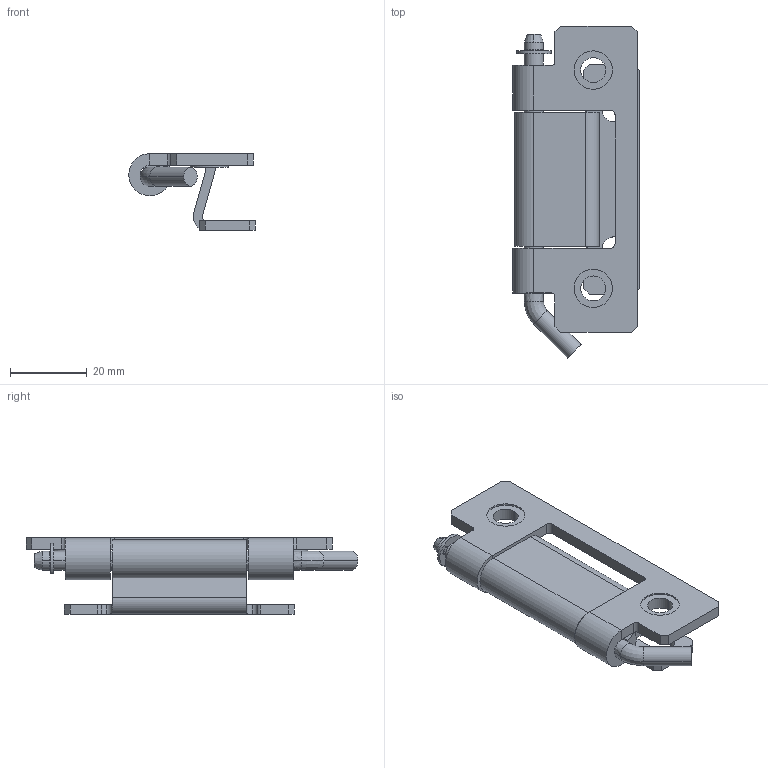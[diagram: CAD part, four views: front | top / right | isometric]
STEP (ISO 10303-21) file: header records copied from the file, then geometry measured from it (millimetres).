
FILE_DESCRIPTION(/* description */ (''),/* implementation_level */ '2;1');
FILE_NAME(/* name */ 'JL250-1',/* time_stamp */ '2025-08-29T13:56:03+08:00',/* author */ (''),/* organization */ (''),/* preprocessor_version */ 'ST-DEVELOPER v19.2',/* originating_system */ 'Rhino 8.5',/* authorisation */ '');
FILE_SCHEMA (('CONFIG_CONTROL_DESIGN'));
Length unit declared in the file: millimetre
Products named in the file (1): Document
Bounding box: 33 x 86.66 x 20 mm (x, y, z)
Volume: 13074.2 mm3; surface area: 11922.5 mm2
Topology: 4 solids, 4 shells, 123 faces, 307 edges, 198 vertices
Faces by surface type: plane 60, cylinder 57, bspline 6
Entity records: 3954 total; most frequent: CARTESIAN_POINT 1251, ORIENTED_EDGE 614, DIRECTION 361, EDGE_CURVE 307, AXIS2_PLACEMENT_3D 239, VERTEX_POINT 198, EDGE_LOOP 141, B_SPLINE_CURVE_WITH_KNOTS 130
